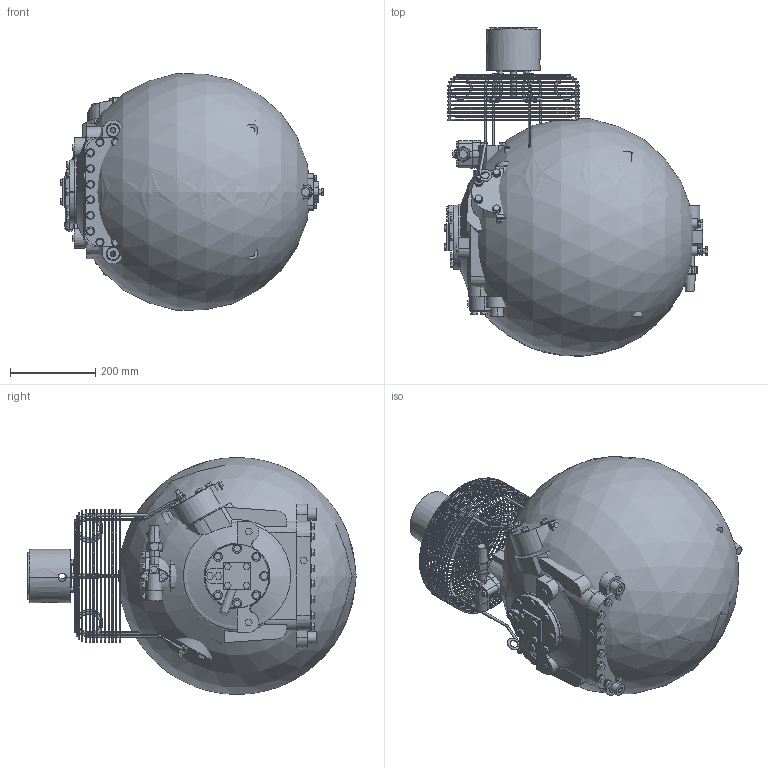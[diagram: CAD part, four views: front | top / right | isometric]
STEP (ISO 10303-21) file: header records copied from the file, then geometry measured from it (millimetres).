
FILE_DESCRIPTION((''),'2;1');
FILE_NAME('PRT0001','2004-01-23T',('kannanb'),(''),'PRO/ENGINEER BY PARAMETRIC TECHNOLOGY CORPORATION, 2001280','PRO/ENGINEER BY PARAMETRIC TECHNOLOGY CORPORATION, 2001280','');
FILE_SCHEMA(('CONFIG_CONTROL_DESIGN','SHAPE_APPEARANCE_LAYERS_GROUPS'));
Products named in the file (1): PRT0001
Bounding box: 618.16 x 768.94 x 554.73 mm (x, y, z)
Surface area: 5633910.4 mm2 (no closed solid volume)
Topology: 0 solids, 0 shells, 1488 faces, 7346 edges, 7225 vertices
Faces by surface type: bspline 1365, torus 119, sphere 4
Entity records: 189380 total; most frequent: CARTESIAN_POINT 98717, DIRECTION 10271, TRIMMED_CURVE 9237, VECTOR 8449, LINE 8449, DEFINITIONAL_REPRESENTATION 7098, PCURVE 7098, COMPOSITE_CURVE_SEGMENT 7098
